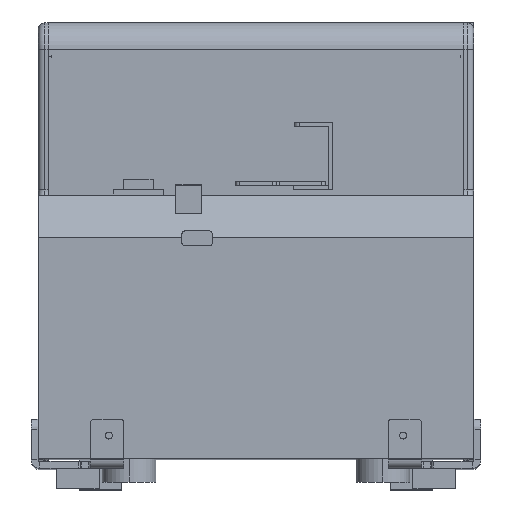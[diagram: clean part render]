
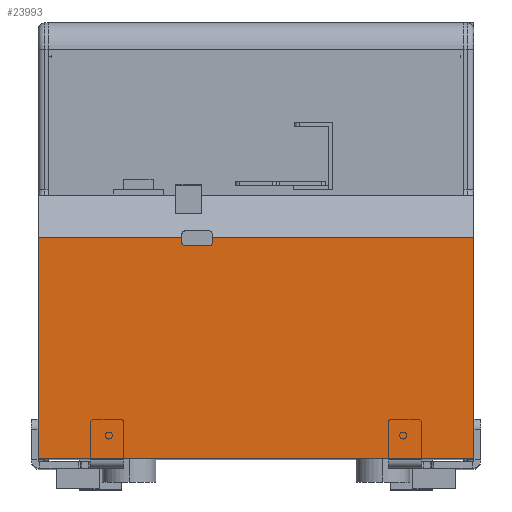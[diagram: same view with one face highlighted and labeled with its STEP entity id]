
A CAD part, top view. The second image highlights one B-rep face of the part: STEP entity #23993.
In plain terms, the highlighted planar face has unit normal (0, 0, 1).
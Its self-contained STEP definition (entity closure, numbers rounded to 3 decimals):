
#28 = CARTESIAN_POINT ( 'NONE',  ( 126.4, 78.1, 59. ) ) ;
#120 = CARTESIAN_POINT ( 'NONE',  ( 39.7, 64., 59. ) ) ;
#1417 = CARTESIAN_POINT ( 'NONE',  ( 40.7, 64., 59. ) ) ;
#1622 = AXIS2_PLACEMENT_3D ( 'NONE', #1417, #3056, #8736 ) ;
#1657 = DIRECTION ( 'NONE',  ( 0., -1., 0. ) ) ;
#1727 = LINE ( 'NONE', #9534, #4253 ) ;
#1788 = CARTESIAN_POINT ( 'NONE',  ( -3., 78.1, 59. ) ) ;
#2130 = DIRECTION ( 'NONE',  ( 0., 1., 0. ) ) ;
#2985 = CARTESIAN_POINT ( 'NONE',  ( 47.7, 63., 59. ) ) ;
#3056 = DIRECTION ( 'NONE',  ( 0., 0., 1. ) ) ;
#3138 = DIRECTION ( 'NONE',  ( -1., 0., 0. ) ) ;
#4253 = VECTOR ( 'NONE', #18467, 1000. ) ;
#4278 = CARTESIAN_POINT ( 'NONE',  ( 47.7, 64., 59. ) ) ;
#4440 = VERTEX_POINT ( 'NONE', #19697 ) ;
#4513 = CARTESIAN_POINT ( 'NONE',  ( 126.4, 65.587, 59. ) ) ;
#4567 = VERTEX_POINT ( 'NONE', #19197 ) ;
#4729 = DIRECTION ( 'NONE',  ( 1., 0., 0. ) ) ;
#4757 = VERTEX_POINT ( 'NONE', #120 ) ;
#4802 = CIRCLE ( 'NONE', #1622, 1. ) ;
#4948 = AXIS2_PLACEMENT_3D ( 'NONE', #4278, #15813, #23508 ) ;
#5504 = CARTESIAN_POINT ( 'NONE',  ( 126.4, 0., 59. ) ) ;
#5898 = CARTESIAN_POINT ( 'NONE',  ( 40.7, 63., 59. ) ) ;
#5935 = AXIS2_PLACEMENT_3D ( 'NONE', #21668, #15826, #19908 ) ;
#6721 = LINE ( 'NONE', #8226, #10526 ) ;
#6930 = CARTESIAN_POINT ( 'NONE',  ( 40.7, 63., 59. ) ) ;
#6972 = VECTOR ( 'NONE', #3138, 1000. ) ;
#7348 = VECTOR ( 'NONE', #23931, 1000. ) ;
#7729 = ORIENTED_EDGE ( 'NONE', *, *, #11146, .T. ) ;
#7830 = LINE ( 'NONE', #28, #8833 ) ;
#8198 = CARTESIAN_POINT ( 'NONE',  ( 39.7, 65.587, 59. ) ) ;
#8226 = CARTESIAN_POINT ( 'NONE',  ( -3., 65.587, 59. ) ) ;
#8559 = CARTESIAN_POINT ( 'NONE',  ( -3., 0., 59. ) ) ;
#8736 = DIRECTION ( 'NONE',  ( 1., 0., 0. ) ) ;
#8788 = LINE ( 'NONE', #6930, #7348 ) ;
#8833 = VECTOR ( 'NONE', #2130, 1000. ) ;
#9157 = VERTEX_POINT ( 'NONE', #5898 ) ;
#9242 = CARTESIAN_POINT ( 'NONE',  ( 39.7, 66.5, 59. ) ) ;
#9452 = EDGE_CURVE ( 'NONE', #22130, #4440, #16789, .T. ) ;
#9534 = CARTESIAN_POINT ( 'NONE',  ( 48.7, 66.5, 59. ) ) ;
#10360 = FACE_OUTER_BOUND ( 'NONE', #19600, .T. ) ;
#10526 = VECTOR ( 'NONE', #13926, 1000. ) ;
#10814 = CARTESIAN_POINT ( 'NONE',  ( 48.7, 64., 59. ) ) ;
#10866 = DIRECTION ( 'NONE',  ( 0., -1., 0. ) ) ;
#10947 = EDGE_CURVE ( 'NONE', #24173, #20657, #7830, .T. ) ;
#11146 = EDGE_CURVE ( 'NONE', #4440, #24173, #21974, .T. ) ;
#11354 = ORIENTED_EDGE ( 'NONE', *, *, #22515, .F. ) ;
#11696 = ORIENTED_EDGE ( 'NONE', *, *, #12629, .T. ) ;
#12380 = ORIENTED_EDGE ( 'NONE', *, *, #16706, .F. ) ;
#12629 = EDGE_CURVE ( 'NONE', #20657, #4567, #6721, .T. ) ;
#12689 = VERTEX_POINT ( 'NONE', #10814 ) ;
#12804 = ORIENTED_EDGE ( 'NONE', *, *, #17378, .F. ) ;
#13084 = EDGE_CURVE ( 'NONE', #9157, #13155, #8788, .T. ) ;
#13155 = VERTEX_POINT ( 'NONE', #2985 ) ;
#13926 = DIRECTION ( 'NONE',  ( -1., 0., 0. ) ) ;
#13992 = VERTEX_POINT ( 'NONE', #8198 ) ;
#15665 = CIRCLE ( 'NONE', #4948, 1. ) ;
#15730 = ORIENTED_EDGE ( 'NONE', *, *, #10947, .T. ) ;
#15813 = DIRECTION ( 'NONE',  ( 0., 0., 1. ) ) ;
#15826 = DIRECTION ( 'NONE',  ( 0., 0., 1. ) ) ;
#16137 = CARTESIAN_POINT ( 'NONE',  ( -3., 65.587, 59. ) ) ;
#16155 = LINE ( 'NONE', #18243, #6972 ) ;
#16642 = VECTOR ( 'NONE', #10866, 1000. ) ;
#16706 = EDGE_CURVE ( 'NONE', #13155, #12689, #15665, .T. ) ;
#16789 = LINE ( 'NONE', #1788, #21966 ) ;
#17378 = EDGE_CURVE ( 'NONE', #12689, #4567, #1727, .T. ) ;
#17526 = ORIENTED_EDGE ( 'NONE', *, *, #9452, .T. ) ;
#18243 = CARTESIAN_POINT ( 'NONE',  ( -3., 65.587, 59. ) ) ;
#18420 = LINE ( 'NONE', #9242, #16642 ) ;
#18467 = DIRECTION ( 'NONE',  ( 0., 1., 0. ) ) ;
#19197 = CARTESIAN_POINT ( 'NONE',  ( 48.7, 65.587, 59. ) ) ;
#19515 = EDGE_CURVE ( 'NONE', #13992, #22130, #16155, .T. ) ;
#19600 = EDGE_LOOP ( 'NONE', ( #15730, #11696, #12804, #12380, #22475, #22662, #11354, #20879, #17526, #7729 ) ) ;
#19633 = VECTOR ( 'NONE', #4729, 1000. ) ;
#19670 = PLANE ( 'NONE',  #5935 ) ;
#19697 = CARTESIAN_POINT ( 'NONE',  ( -3., 0., 59. ) ) ;
#19908 = DIRECTION ( 'NONE',  ( 1., 0., 0. ) ) ;
#20332 = EDGE_CURVE ( 'NONE', #4757, #9157, #4802, .T. ) ;
#20657 = VERTEX_POINT ( 'NONE', #4513 ) ;
#20879 = ORIENTED_EDGE ( 'NONE', *, *, #19515, .T. ) ;
#21668 = CARTESIAN_POINT ( 'NONE',  ( 0., 0., 59. ) ) ;
#21966 = VECTOR ( 'NONE', #1657, 1000. ) ;
#21974 = LINE ( 'NONE', #8559, #19633 ) ;
#22130 = VERTEX_POINT ( 'NONE', #16137 ) ;
#22475 = ORIENTED_EDGE ( 'NONE', *, *, #13084, .F. ) ;
#22515 = EDGE_CURVE ( 'NONE', #13992, #4757, #18420, .T. ) ;
#22662 = ORIENTED_EDGE ( 'NONE', *, *, #20332, .F. ) ;
#23508 = DIRECTION ( 'NONE',  ( 1., 0., 0. ) ) ;
#23931 = DIRECTION ( 'NONE',  ( 1., 0., 0. ) ) ;
#23993 = ADVANCED_FACE ( 'NONE', ( #10360 ), #19670, .T. ) ;
#24173 = VERTEX_POINT ( 'NONE', #5504 ) ;
